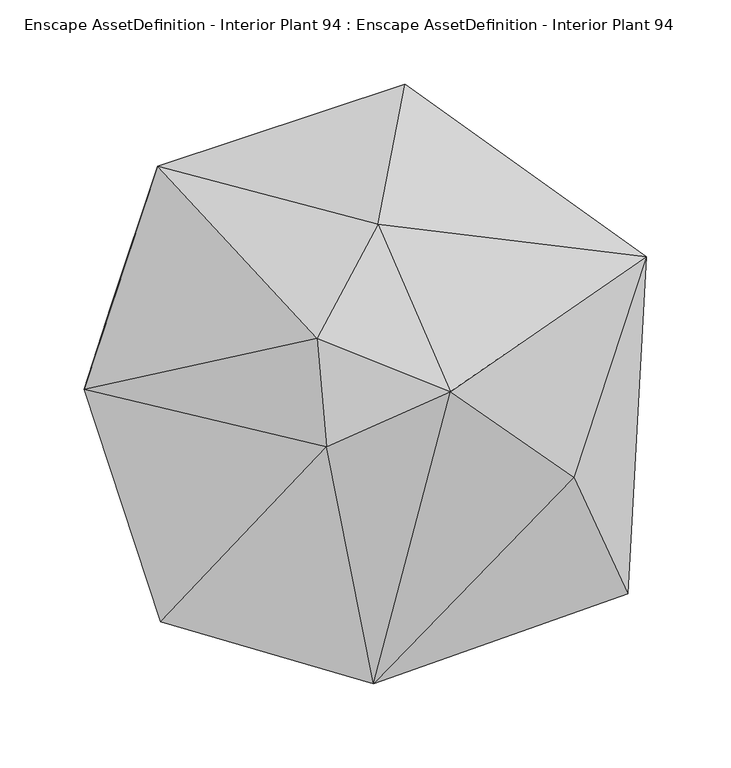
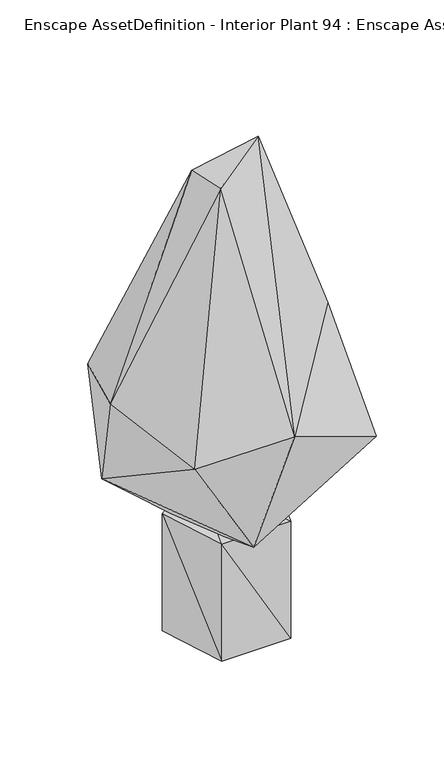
"""IFC4 building model written with IfcOpenShell, lengths in millimetres: geographic element geometry, Enscape AssetDefinition - Interior Plant 94 : Enscape AssetDefinition - Interior Plant 94."""

from ifc_helpers import new_model, si_unit, origin, place, context, project, spatial, faceted_brep, source, transform, mapped, element, save


def enscape_assetdefinition_interior_plant_94_enscape_f19d4f65(model_context):
    return source(origin(), model_context, "Body", "Brep", [
        faceted_brep([(51.1879995, -70.4540014, 0.0), (82.8239992, 26.9109998, 0.0), (51.1879995, -70.4540014, 182.4750006), (0.0, 87.0859995, 0.0), (82.8239992, 26.9109998, 182.4750006), (-51.1879995, -70.4540014, 0.0), (0.0, 87.0859995, 182.4750006), (-51.1879995, -70.4540014, 182.4750006), (-82.8239992, 26.9109998, 0.0), (-82.8239992, 26.9109998, 182.4750006)], [[[0, 1, 2]], [[1, 3, 4]], [[5, 1, 0]], [[2, 1, 4]], [[5, 3, 1]], [[6, 2, 4]], [[7, 0, 2]], [[6, 7, 2]], [[5, 0, 7]], [[8, 5, 9]], [[9, 5, 7]], [[3, 5, 8]], [[3, 8, 6]], [[4, 3, 6]], [[6, 8, 9]], [[7, 6, 9]]]),
        faceted_brep([(-35.5940014, 32.0929997, 698.2309818), (0.334, 99.7169986, 522.3109722), (-130.4170042, 134.1239959, 367.9989874), (43.5510017, 0.095, 743.0300117), (16.5170003, 182.7819943, 390.854001), (159.9709988, 80.482997, 388.1559968), (-174.0909964, 1.7040001, 401.2410045), (-30.1159993, -32.331001, 706.8690062), (116.9139966, -50.6139994, 489.2480075), (-2.114, -173.051998, 395.092994), (-128.6330074, -136.1490041, 366.4810061), (-158.2639962, 50.7090017, 248.8929927), (-39.3120013, -132.5509995, 211.5440071), (148.7690061, -119.7569966, 311.0269904), (141.7929977, 4.5799999, 219.8619992), (-42.0720018, 2.2410001, 161.4309996), (44.6510017, 148.4639943, 226.4849991)], [[[0, 1, 2]], [[0, 3, 1]], [[4, 1, 5]], [[1, 4, 2]], [[1, 3, 5]], [[6, 0, 2]], [[6, 7, 0]], [[7, 3, 0]], [[5, 3, 8]], [[8, 3, 9]], [[9, 3, 7]], [[7, 10, 9]], [[10, 7, 6]], [[11, 6, 2]], [[10, 6, 11]], [[11, 12, 10]], [[12, 9, 10]], [[12, 13, 9]], [[13, 8, 9]], [[13, 5, 8]], [[14, 5, 13]], [[12, 14, 13]], [[15, 14, 12]], [[12, 11, 15]], [[15, 11, 16]], [[2, 16, 11]], [[15, 16, 14]], [[14, 16, 5]], [[4, 5, 16]], [[16, 2, 4]]]),
    ])


if __name__ == "__main__":
    model = new_model("IFC4")
    model_context = context("Model", 3, world=origin())
    ifc_project = project(units=[si_unit("LENGTHUNIT", "METRE", prefix="MILLI")], contexts=[model_context])
    site = spatial("IfcSite", under=ifc_project)
    building = spatial("IfcBuilding", under=site)
    placement = place(None, origin())
    enscape_assetdefinition_interior_plant_94_enscape_shape = enscape_assetdefinition_interior_plant_94_enscape_f19d4f65(model_context)
    element("IfcGeographicElement", 1, ObjectType="Enscape AssetDefinition - Interior Plant 94 : Enscape AssetDefinition - Interior Plant 94", at=placement, inside=building, context=model_context, shape_type="MappedRepresentation", body=[
        mapped(enscape_assetdefinition_interior_plant_94_enscape_shape, transform((0.0, 0.0, 0.0), x_axis=(1.0, 0.0, 0.0), y_axis=(0.0, 1.0, 0.0), z_axis=(0.0, 0.0, 1.0))),
    ])
    save(model, "model.ifc")
